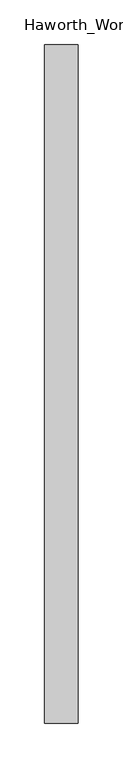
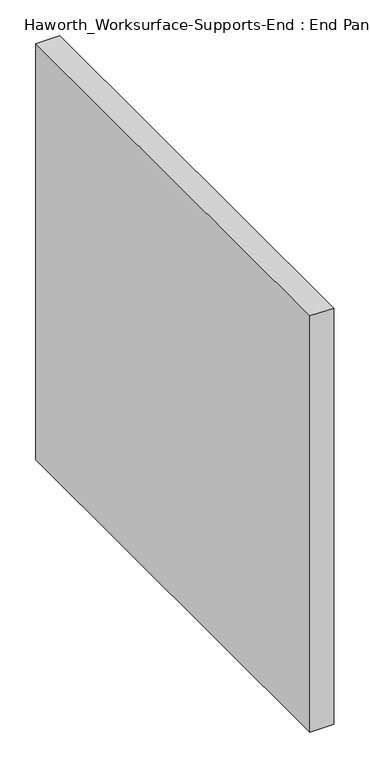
"""IFC4 building model written with IfcOpenShell, lengths in millimetres: furniture geometry, Haworth_Worksurface-Supports-End : End Panel Support."""

from ifc_helpers import new_model, si_unit, origin, origin_with_axes, place, context, project, spatial, polyline, outline, extrude, source, transform, mapped, element, save


def haworth_worksurface_supports_end_end_panel_support_78a54541(model_context):
    return source(origin(), model_context, "Body", "SweptSolid", [
        extrude(outline(polyline([(234.95, -181.2465234), (196.85, -181.2465234), (196.85, 580.7534766), (234.95, 580.7534766), (234.95, -181.2465234)])), origin_with_axes(), (0.0, 0.0, 1.0), 706.4375),
    ])


if __name__ == "__main__":
    model = new_model("IFC4")
    model_context = context("Model", 3, world=origin())
    ifc_project = project(units=[si_unit("LENGTHUNIT", "METRE", prefix="MILLI")], contexts=[model_context])
    site = spatial("IfcSite", under=ifc_project)
    building = spatial("IfcBuilding", under=site)
    placement = place(None, origin())
    haworth_worksurface_supports_end_end_panel_support_shape = haworth_worksurface_supports_end_end_panel_support_78a54541(model_context)
    element("IfcFurniture", 1, ObjectType="Haworth_Worksurface-Supports-End : End Panel Support", at=placement, inside=building, context=model_context, shape_type="MappedRepresentation", body=[
        mapped(haworth_worksurface_supports_end_end_panel_support_shape, transform((0.0, 0.0, 0.0), x_axis=(1.0, 0.0, 0.0), y_axis=(0.0, 1.0, 0.0), z_axis=(0.0, 0.0, 1.0))),
    ])
    save(model, "model.ifc")
